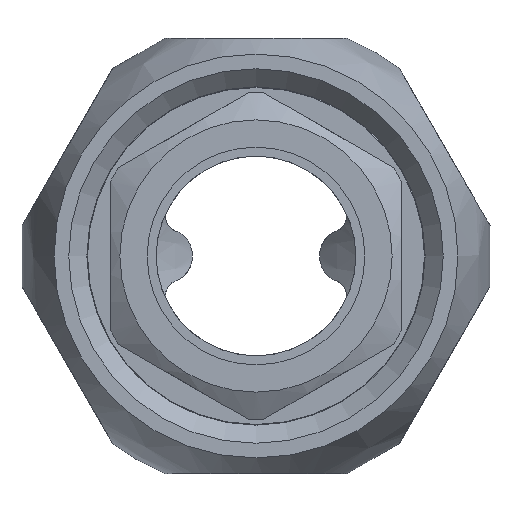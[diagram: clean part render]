
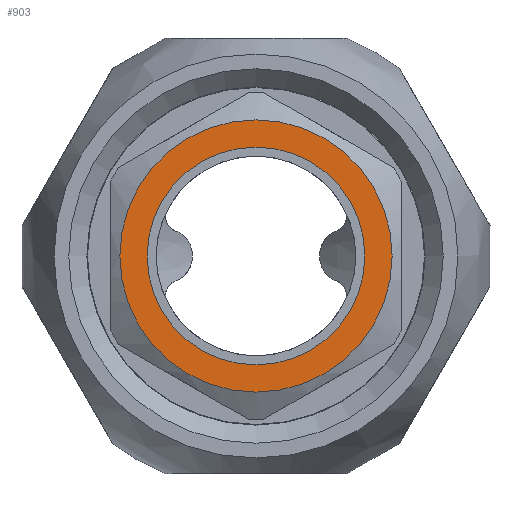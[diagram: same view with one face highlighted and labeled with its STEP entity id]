
A CAD part, left-side view. The second image highlights one B-rep face of the part: STEP entity #903.
In plain terms, the highlighted planar face has unit normal (-1, 0, 0) as drawn and (1, 0, 0) by its records, which use the part's own axes.
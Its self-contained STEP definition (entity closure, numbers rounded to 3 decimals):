
#87=FACE_BOUND('',#213,.T.);
#111=PLANE('',#1101);
#148=FACE_OUTER_BOUND('',#212,.T.);
#212=EDGE_LOOP('',(#720));
#213=EDGE_LOOP('',(#721));
#374=CIRCLE('',#1100,7.5);
#375=CIRCLE('',#1102,6.);
#439=VERTEX_POINT('',#1585);
#440=VERTEX_POINT('',#1589);
#539=EDGE_CURVE('',#439,#439,#374,.T.);
#541=EDGE_CURVE('',#440,#440,#375,.T.);
#720=ORIENTED_EDGE('',*,*,#539,.T.);
#721=ORIENTED_EDGE('',*,*,#541,.F.);
#903=ADVANCED_FACE('',(#148,#87),#111,.T.);
#1100=AXIS2_PLACEMENT_3D('',#1586,#1296,#1297);
#1101=AXIS2_PLACEMENT_3D('',#1588,#1299,#1300);
#1102=AXIS2_PLACEMENT_3D('',#1590,#1301,#1302);
#1296=DIRECTION('center_axis',(1.,0.,0.));
#1297=DIRECTION('ref_axis',(0.,1.,0.));
#1299=DIRECTION('center_axis',(1.,0.,0.));
#1300=DIRECTION('ref_axis',(0.,0.,-1.));
#1301=DIRECTION('center_axis',(1.,0.,0.));
#1302=DIRECTION('ref_axis',(0.,1.,0.));
#1585=CARTESIAN_POINT('',(16.,-7.5,0.));
#1586=CARTESIAN_POINT('Origin',(16.,0.,0.));
#1588=CARTESIAN_POINT('Origin',(16.,6.75,0.));
#1589=CARTESIAN_POINT('',(16.,-6.,0.));
#1590=CARTESIAN_POINT('Origin',(16.,0.,0.));
